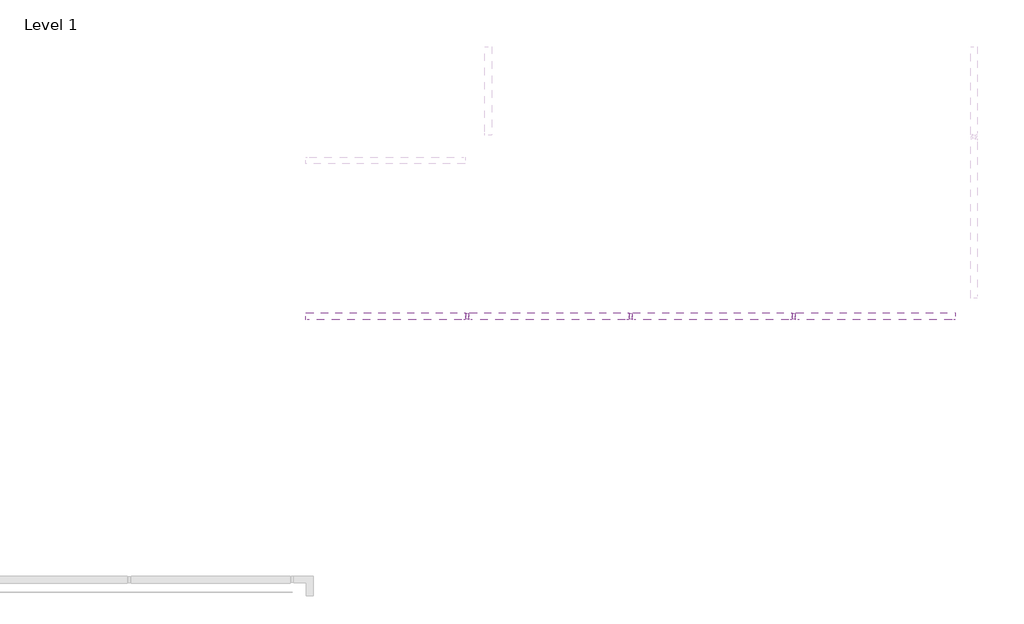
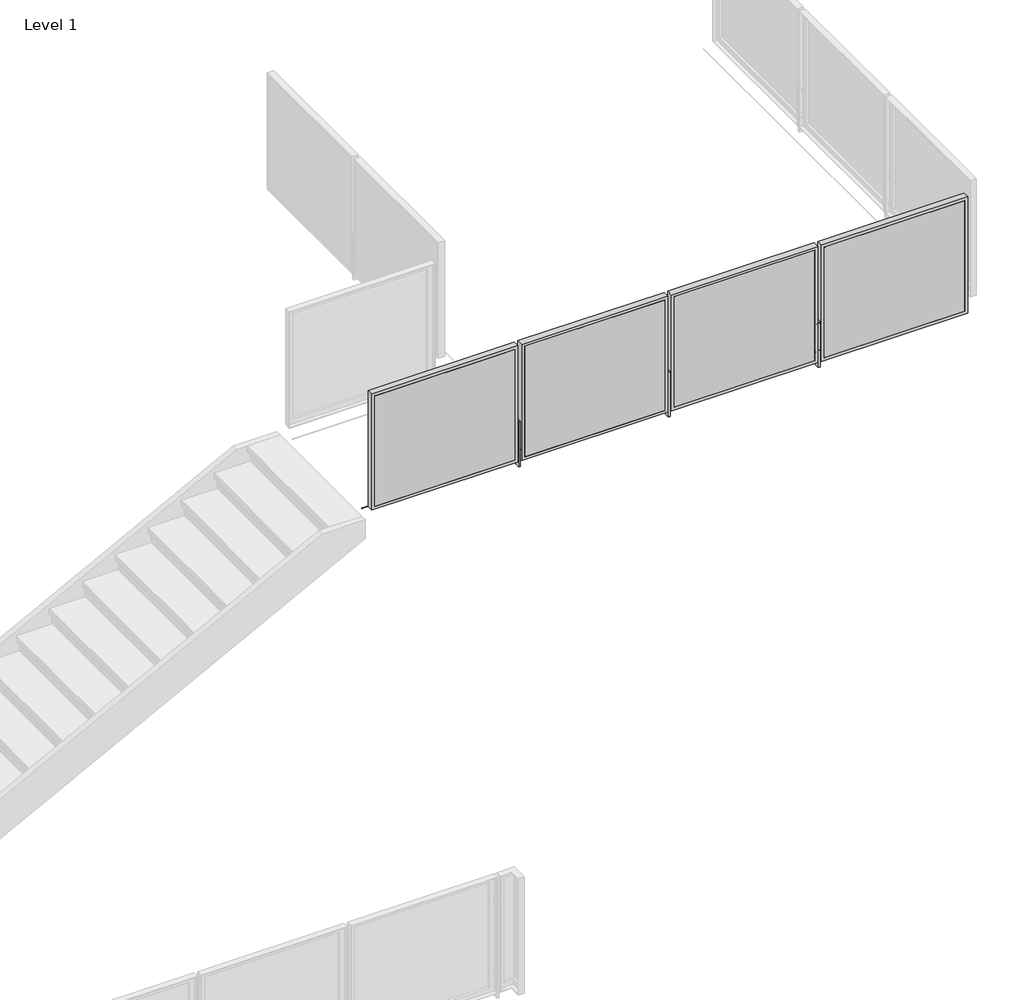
# One storey, part 6 of 37: 1 railing.
"""IFC4 building model written with IfcOpenShell, lengths in millimetres."""

from ifc_helpers import new_model, si_unit, point, frame, frame_2d, origin, place, context, project, spatial, polyline, circle_curve, trimmed, segment, composite_curve, outline, extrude, faceted_brep, element, save
from ifc_brep_helpers import plane_surface, cylinder_surface, advanced_brep

model = new_model("IFC4")

# Units and contexts
model_context = context("Model", 3, world=origin())
ifc_project = project(units=[si_unit("LENGTHUNIT", "METRE", prefix="MILLI")], contexts=[model_context])

# Site, building, storey
site = spatial("IfcSite", under=ifc_project)
building = spatial("IfcBuilding", under=site)
storey = spatial("IfcBuildingStorey", under=building, Name="Level 1", Elevation=0.0)

# Railing
placement = place(None, origin())
element("IfcRailing", 1, ObjectType="Metal-Panel-VIVA-FRAME-Slab-Top-Weld-Straight", at=placement, inside=storey, context=model_context, shape_type="SolidModel", body=[
    extrude(outline(composite_curve([segment(trimmed(circle_curve(frame_2d((-31331.5771681, 3047.746)), 0.254), [point((-31331.8311681, 3047.746))], [point((-31331.3231681, 3047.746))], False, "CARTESIAN"), True, "CONTINUOUS"), segment(trimmed(circle_curve(frame_2d((-31331.5771681, 3047.746)), 0.254), [point((-31331.3231681, 3047.746))], [point((-31331.8311681, 3047.746))], False, "CARTESIAN"), True, "CONTINUOUS")], self_intersect=False)), frame((-33026.4063244, 0.0, 0.0), z_axis=(1.0, 0.0, 0.0), x_axis=(0.0, 1.0, 0.0)), (0.0, 0.0, 1.0), 5080.0),
    extrude(outline(composite_curve([segment(trimmed(circle_curve(frame_2d((-31331.5771681, 3047.746)), 0.254), [point((-31331.8311681, 3047.746))], [point((-31331.3231681, 3047.746))], False, "CARTESIAN"), True, "CONTINUOUS"), segment(trimmed(circle_curve(frame_2d((-31331.5771681, 3047.746)), 0.254), [point((-31331.3231681, 3047.746))], [point((-31331.8311681, 3047.746))], False, "CARTESIAN"), True, "CONTINUOUS")], self_intersect=False)), frame((-33026.4063244, 0.0, 0.0), z_axis=(1.0, 0.0, 0.0), x_axis=(0.0, 1.0, 0.0)), (0.0, 0.0, 1.0), 5080.0),
    extrude(outline(polyline([(-29175.5798675, -31454.3875681), (-29175.5798675, -31451.3875681), (-27987.2327814, -31451.3875681), (-27987.2327814, -31454.3875681), (-29175.5798675, -31454.3875681)])), frame((0.0, 0.0, 3124.1959569), z_axis=(0.0, 0.0, 1.0), x_axis=(1.0, 0.0, 0.0)), (0.0, 0.0, 1.0), 990.5826861),
    faceted_brep([(-29200.9798675, -31454.3875681, 4140.1786431), (-29200.9798675, -31454.3875681, 3098.7959569), (-27961.8327814, -31454.3875681, 3098.7959569), (-27961.8327814, -31454.3875681, 4140.1786431), (-29175.5798675, -31454.3875681, 4114.7786431), (-27987.2327814, -31454.3875681, 4114.7786431), (-27987.2327814, -31454.3875681, 3124.1959569), (-29175.5798675, -31454.3875681, 3124.1959569), (-27987.2327814, -31451.3875681, 3124.1959569), (-29175.5798675, -31451.3875681, 3124.1959569), (-27987.2327814, -31451.3875681, 4114.7786431), (-29175.5798675, -31451.3875681, 4114.7786431), (-29194.9854675, -31400.5875681, 3104.7903569), (-29194.9854675, -31431.3977681, 3104.7903569), (-27967.8271814, -31431.3977681, 3104.7903569), (-27967.8271814, -31400.5875681, 3104.7903569), (-27967.8271814, -31431.3977681, 4134.1842431), (-27967.8271814, -31400.5875681, 4134.1842431), (-29194.9854675, -31400.5875681, 4134.1842431), (-29194.9854675, -31431.3977681, 4134.1842431), (-27961.8327814, -31400.5875681, 3098.7959569), (-29200.9798675, -31400.5875681, 3098.7959569), (-29200.9798675, -31400.5875681, 4140.1786431), (-27961.8327814, -31400.5875681, 4140.1786431), (-29150.1798675, -31451.3875681, 4089.3786431), (-28012.6327814, -31451.3875681, 4089.3786431), (-28012.6327814, -31451.3875681, 3149.5959569), (-29150.1798675, -31451.3875681, 3149.5959569), (-28012.6327814, -31431.3977681, 3149.5959569), (-28012.6327814, -31431.3977681, 4089.3786431), (-29150.1798675, -31431.3977681, 4089.3786431), (-29150.1798675, -31431.3977681, 3149.5959569)], [[[0, 1, 2, 3], [4, 5, 6, 7]], [[7, 6, 8, 9]], [[6, 5, 10, 8]], [[5, 4, 11, 10]], [[4, 7, 9, 11]], [[12, 13, 14, 15]], [[15, 14, 16, 17]], [[13, 12, 18, 19]], [[20, 21, 22, 23], [12, 15, 17, 18]], [[21, 1, 0, 22]], [[21, 20, 2, 1]], [[2, 20, 23, 3]], [[22, 0, 3, 23]], [[11, 9, 8, 10], [24, 25, 26, 27]], [[14, 13, 19, 16], [28, 29, 30, 31]], [[19, 18, 17, 16]], [[25, 24, 30, 29]], [[26, 25, 29, 28]], [[27, 26, 28, 31]], [[24, 27, 31, 30]]]),
    advanced_brep(
    [(-29242.5937244, -31427.4875681, 3178.1496), (-29242.5937244, -31427.4875681, 3197.2504), (-29242.5937244, -31427.4875681, 3187.7), (-29237.8185244, -31427.4875681, 3178.1496), (-29237.8185244, -31427.4875681, 3197.2504), (-29237.8185244, -31427.4875681, 3182.9248), (-29237.8185244, -31427.4875681, 3192.4752), (-29194.9941244, -31427.4875681, 3182.9248), (-29194.9941244, -31427.4875681, 3192.4752), (-29194.9941244, -31427.4875681, 3178.1496), (-29194.9941244, -31427.4875681, 3197.2504), (-29190.2189244, -31427.4875681, 3178.1496), (-29190.2189244, -31427.4875681, 3197.2504), (-29190.2189244, -31427.4875681, 3187.7)],
    [
        (0, 1, circle_curve(frame((-29242.5937244, -31427.4875681, 3187.7), z_axis=(-1.0, 0.0, 0.0), x_axis=(0.0, 0.0, 1.0)), 9.5504)),
        (1, 2),
        (2, 0),
        (1, 0, circle_curve(frame((-29242.5937244, -31427.4875681, 3187.7), z_axis=(-1.0, 0.0, 0.0), x_axis=(0.0, 0.0, 1.0)), 9.5504)),
        (3, 4, circle_curve(frame((-29237.8185244, -31427.4875681, 3187.7), z_axis=(-1.0, 0.0, 0.0), x_axis=(0.0, 0.0, 1.0)), 9.5504)),
        (4, 1),
        (0, 3),
        (4, 3, circle_curve(frame((-29237.8185244, -31427.4875681, 3187.7), z_axis=(-1.0, 0.0, 0.0), x_axis=(0.0, 0.0, 1.0)), 9.5504)),
        (5, 6, circle_curve(frame((-29237.8185244, -31427.4875681, 3187.7), z_axis=(-1.0, 0.0, 0.0), x_axis=(0.0, 0.0, 1.0)), 4.7752)),
        (6, 4),
        (3, 5),
        (6, 5, circle_curve(frame((-29237.8185244, -31427.4875681, 3187.7), z_axis=(-1.0, 0.0, 0.0), x_axis=(0.0, 0.0, 1.0)), 4.7752)),
        (7, 8, circle_curve(frame((-29194.9941244, -31427.4875681, 3187.7), z_axis=(-1.0, 0.0, 0.0), x_axis=(0.0, 0.0, 1.0)), 4.7752)),
        (8, 6),
        (5, 7),
        (8, 7, circle_curve(frame((-29194.9941244, -31427.4875681, 3187.7), z_axis=(-1.0, 0.0, 0.0), x_axis=(0.0, 0.0, 1.0)), 4.7752)),
        (9, 10, circle_curve(frame((-29194.9941244, -31427.4875681, 3187.7), z_axis=(-1.0, 0.0, 0.0), x_axis=(0.0, 0.0, 1.0)), 9.5504)),
        (10, 8),
        (7, 9),
        (10, 9, circle_curve(frame((-29194.9941244, -31427.4875681, 3187.7), z_axis=(-1.0, 0.0, 0.0), x_axis=(0.0, 0.0, 1.0)), 9.5504)),
        (11, 12, circle_curve(frame((-29190.2189244, -31427.4875681, 3187.7), z_axis=(-1.0, 0.0, 0.0), x_axis=(0.0, 0.0, 1.0)), 9.5504)),
        (12, 10),
        (9, 11),
        (12, 11, circle_curve(frame((-29190.2189244, -31427.4875681, 3187.7), z_axis=(-1.0, 0.0, 0.0), x_axis=(0.0, 0.0, 1.0)), 9.5504)),
        (13, 12),
        (11, 13),
    ],
    [
        plane_surface(frame((-29242.5937244, -31427.4875681, 3187.7), z_axis=(-1.0, 0.0, 0.0), x_axis=(0.0, 0.0, 1.0))),
        cylinder_surface(frame((-32634.1740816, -31427.4875681, 3187.7), z_axis=(1.0, 0.0, 0.0), x_axis=(0.0, 0.0, 1.0)), 9.5504),
        plane_surface(frame((-29237.8185244, -31427.4875681, 3187.7), z_axis=(1.0, 0.0, 0.0), x_axis=(0.0, 0.0, 1.0))),
        cylinder_surface(frame((-32634.1740816, -31427.4875681, 3187.7), z_axis=(1.0, 0.0, 0.0), x_axis=(0.0, 0.0, 1.0)), 4.7752),
        plane_surface(frame((-29194.9941244, -31427.4875681, 3187.7), z_axis=(-1.0, 0.0, 0.0), x_axis=(0.0, 0.0, 1.0))),
        plane_surface(frame((-29190.2189244, -31427.4875681, 3187.7), z_axis=(1.0, 0.0, 0.0), x_axis=(0.0, 0.0, 1.0))),
    ],
    [
        (0, [[1, 2, 3]]),
        (0, [[4, -3, -2]]),
        (1, [[5, 6, -1, 7]]),
        (1, [[8, -7, -4, -6]]),
        (2, [[9, 10, -5, 11]]),
        (2, [[12, -11, -8, -10]]),
        (3, [[13, 14, -9, 15]]),
        (3, [[16, -15, -12, -14]]),
        (4, [[17, 18, -13, 19]]),
        (4, [[20, -19, -16, -18]]),
        (1, [[21, 22, -17, 23]]),
        (1, [[24, -23, -20, -22]]),
        (5, [[25, -21, 26]]),
        (5, [[-26, -24, -25]]),
    ],
),
    advanced_brep(
    [(-29242.5937244, -31427.4875681, 3419.4496), (-29242.5937244, -31427.4875681, 3438.5504), (-29242.5937244, -31427.4875681, 3429.0), (-29237.8185244, -31427.4875681, 3419.4496), (-29237.8185244, -31427.4875681, 3438.5504), (-29237.8185244, -31427.4875681, 3424.2248), (-29237.8185244, -31427.4875681, 3433.7752), (-29194.9941244, -31427.4875681, 3424.2248), (-29194.9941244, -31427.4875681, 3433.7752), (-29194.9941244, -31427.4875681, 3419.4496), (-29194.9941244, -31427.4875681, 3438.5504), (-29190.2189244, -31427.4875681, 3419.4496), (-29190.2189244, -31427.4875681, 3438.5504), (-29190.2189244, -31427.4875681, 3429.0)],
    [
        (0, 1, circle_curve(frame((-29242.5937244, -31427.4875681, 3429.0), z_axis=(-1.0, 0.0, 0.0), x_axis=(0.0, 0.0, 1.0)), 9.5504)),
        (1, 2),
        (2, 0),
        (1, 0, circle_curve(frame((-29242.5937244, -31427.4875681, 3429.0), z_axis=(-1.0, 0.0, 0.0), x_axis=(0.0, 0.0, 1.0)), 9.5504)),
        (3, 4, circle_curve(frame((-29237.8185244, -31427.4875681, 3429.0), z_axis=(-1.0, 0.0, 0.0), x_axis=(0.0, 0.0, 1.0)), 9.5504)),
        (4, 1),
        (0, 3),
        (4, 3, circle_curve(frame((-29237.8185244, -31427.4875681, 3429.0), z_axis=(-1.0, 0.0, 0.0), x_axis=(0.0, 0.0, 1.0)), 9.5504)),
        (5, 6, circle_curve(frame((-29237.8185244, -31427.4875681, 3429.0), z_axis=(-1.0, 0.0, 0.0), x_axis=(0.0, 0.0, 1.0)), 4.7752)),
        (6, 4),
        (3, 5),
        (6, 5, circle_curve(frame((-29237.8185244, -31427.4875681, 3429.0), z_axis=(-1.0, 0.0, 0.0), x_axis=(0.0, 0.0, 1.0)), 4.7752)),
        (7, 8, circle_curve(frame((-29194.9941244, -31427.4875681, 3429.0), z_axis=(-1.0, 0.0, 0.0), x_axis=(0.0, 0.0, 1.0)), 4.7752)),
        (8, 6),
        (5, 7),
        (8, 7, circle_curve(frame((-29194.9941244, -31427.4875681, 3429.0), z_axis=(-1.0, 0.0, 0.0), x_axis=(0.0, 0.0, 1.0)), 4.7752)),
        (9, 10, circle_curve(frame((-29194.9941244, -31427.4875681, 3429.0), z_axis=(-1.0, 0.0, 0.0), x_axis=(0.0, 0.0, 1.0)), 9.5504)),
        (10, 8),
        (7, 9),
        (10, 9, circle_curve(frame((-29194.9941244, -31427.4875681, 3429.0), z_axis=(-1.0, 0.0, 0.0), x_axis=(0.0, 0.0, 1.0)), 9.5504)),
        (11, 12, circle_curve(frame((-29190.2189244, -31427.4875681, 3429.0), z_axis=(-1.0, 0.0, 0.0), x_axis=(0.0, 0.0, 1.0)), 9.5504)),
        (12, 10),
        (9, 11),
        (12, 11, circle_curve(frame((-29190.2189244, -31427.4875681, 3429.0), z_axis=(-1.0, 0.0, 0.0), x_axis=(0.0, 0.0, 1.0)), 9.5504)),
        (13, 12),
        (11, 13),
    ],
    [
        plane_surface(frame((-29242.5937244, -31427.4875681, 3429.0), z_axis=(-1.0, 0.0, 0.0), x_axis=(0.0, 0.0, 1.0))),
        cylinder_surface(frame((-32634.1740816, -31427.4875681, 3429.0), z_axis=(1.0, 0.0, 0.0), x_axis=(0.0, 0.0, 1.0)), 9.5504),
        plane_surface(frame((-29237.8185244, -31427.4875681, 3429.0), z_axis=(1.0, 0.0, 0.0), x_axis=(0.0, 0.0, 1.0))),
        cylinder_surface(frame((-32634.1740816, -31427.4875681, 3429.0), z_axis=(1.0, 0.0, 0.0), x_axis=(0.0, 0.0, 1.0)), 4.7752),
        plane_surface(frame((-29194.9941244, -31427.4875681, 3429.0), z_axis=(-1.0, 0.0, 0.0), x_axis=(0.0, 0.0, 1.0))),
        plane_surface(frame((-29190.2189244, -31427.4875681, 3429.0), z_axis=(1.0, 0.0, 0.0), x_axis=(0.0, 0.0, 1.0))),
    ],
    [
        (0, [[1, 2, 3]]),
        (0, [[4, -3, -2]]),
        (1, [[5, 6, -1, 7]]),
        (1, [[8, -7, -4, -6]]),
        (2, [[9, 10, -5, 11]]),
        (2, [[12, -11, -8, -10]]),
        (3, [[13, 14, -9, 15]]),
        (3, [[16, -15, -12, -14]]),
        (4, [[17, 18, -13, 19]]),
        (4, [[20, -19, -16, -18]]),
        (1, [[21, 22, -17, 23]]),
        (1, [[24, -23, -20, -22]]),
        (5, [[25, -21, 26]]),
        (5, [[-26, -24, -25]]),
    ],
),
    extrude(outline(polyline([(-29224.3459161, -31405.2625681), (-29208.4667328, -31405.2625681), (-29208.4667328, -31449.7125681), (-29224.3459161, -31449.7125681), (-29224.3459161, -31405.2625681)])), frame((0.0, 0.0, 3048.0), z_axis=(0.0, 0.0, 1.0), x_axis=(1.0, 0.0, 0.0)), (0.0, 0.0, 1.0), 406.4),
    extrude(outline(polyline([(-30445.5798675, -31454.3875681), (-30445.5798675, -31451.3875681), (-29257.2327814, -31451.3875681), (-29257.2327814, -31454.3875681), (-30445.5798675, -31454.3875681)])), frame((0.0, 0.0, 3124.1959569), z_axis=(0.0, 0.0, 1.0), x_axis=(1.0, 0.0, 0.0)), (0.0, 0.0, 1.0), 990.5826861),
    faceted_brep([(-30470.9798675, -31454.3875681, 4140.1786431), (-30470.9798675, -31454.3875681, 3098.7959569), (-29231.8327814, -31454.3875681, 3098.7959569), (-29231.8327814, -31454.3875681, 4140.1786431), (-30445.5798675, -31454.3875681, 4114.7786431), (-29257.2327814, -31454.3875681, 4114.7786431), (-29257.2327814, -31454.3875681, 3124.1959569), (-30445.5798675, -31454.3875681, 3124.1959569), (-29257.2327814, -31451.3875681, 3124.1959569), (-30445.5798675, -31451.3875681, 3124.1959569), (-29257.2327814, -31451.3875681, 4114.7786431), (-30445.5798675, -31451.3875681, 4114.7786431), (-30464.9854675, -31400.5875681, 3104.7903569), (-30464.9854675, -31431.3977681, 3104.7903569), (-29237.8271814, -31431.3977681, 3104.7903569), (-29237.8271814, -31400.5875681, 3104.7903569), (-29237.8271814, -31431.3977681, 4134.1842431), (-29237.8271814, -31400.5875681, 4134.1842431), (-30464.9854675, -31400.5875681, 4134.1842431), (-30464.9854675, -31431.3977681, 4134.1842431), (-29231.8327814, -31400.5875681, 3098.7959569), (-30470.9798675, -31400.5875681, 3098.7959569), (-30470.9798675, -31400.5875681, 4140.1786431), (-29231.8327814, -31400.5875681, 4140.1786431), (-30420.1798675, -31451.3875681, 4089.3786431), (-29282.6327814, -31451.3875681, 4089.3786431), (-29282.6327814, -31451.3875681, 3149.5959569), (-30420.1798675, -31451.3875681, 3149.5959569), (-29282.6327814, -31431.3977681, 3149.5959569), (-29282.6327814, -31431.3977681, 4089.3786431), (-30420.1798675, -31431.3977681, 4089.3786431), (-30420.1798675, -31431.3977681, 3149.5959569)], [[[0, 1, 2, 3], [4, 5, 6, 7]], [[7, 6, 8, 9]], [[6, 5, 10, 8]], [[5, 4, 11, 10]], [[4, 7, 9, 11]], [[12, 13, 14, 15]], [[15, 14, 16, 17]], [[13, 12, 18, 19]], [[20, 21, 22, 23], [12, 15, 17, 18]], [[21, 1, 0, 22]], [[21, 20, 2, 1]], [[2, 20, 23, 3]], [[22, 0, 3, 23]], [[11, 9, 8, 10], [24, 25, 26, 27]], [[14, 13, 19, 16], [28, 29, 30, 31]], [[19, 18, 17, 16]], [[25, 24, 30, 29]], [[26, 25, 29, 28]], [[27, 26, 28, 31]], [[24, 27, 31, 30]]]),
    advanced_brep(
    [(-30512.5937244, -31427.4875681, 3178.1496), (-30512.5937244, -31427.4875681, 3197.2504), (-30512.5937244, -31427.4875681, 3187.7), (-30507.8185244, -31427.4875681, 3178.1496), (-30507.8185244, -31427.4875681, 3197.2504), (-30507.8185244, -31427.4875681, 3182.9248), (-30507.8185244, -31427.4875681, 3192.4752), (-30464.9941244, -31427.4875681, 3182.9248), (-30464.9941244, -31427.4875681, 3192.4752), (-30464.9941244, -31427.4875681, 3178.1496), (-30464.9941244, -31427.4875681, 3197.2504), (-30460.2189244, -31427.4875681, 3178.1496), (-30460.2189244, -31427.4875681, 3197.2504), (-30460.2189244, -31427.4875681, 3187.7)],
    [
        (0, 1, circle_curve(frame((-30512.5937244, -31427.4875681, 3187.7), z_axis=(-1.0, 0.0, 0.0), x_axis=(0.0, 0.0, 1.0)), 9.5504)),
        (1, 2),
        (2, 0),
        (1, 0, circle_curve(frame((-30512.5937244, -31427.4875681, 3187.7), z_axis=(-1.0, 0.0, 0.0), x_axis=(0.0, 0.0, 1.0)), 9.5504)),
        (3, 4, circle_curve(frame((-30507.8185244, -31427.4875681, 3187.7), z_axis=(-1.0, 0.0, 0.0), x_axis=(0.0, 0.0, 1.0)), 9.5504)),
        (4, 1),
        (0, 3),
        (4, 3, circle_curve(frame((-30507.8185244, -31427.4875681, 3187.7), z_axis=(-1.0, 0.0, 0.0), x_axis=(0.0, 0.0, 1.0)), 9.5504)),
        (5, 6, circle_curve(frame((-30507.8185244, -31427.4875681, 3187.7), z_axis=(-1.0, 0.0, 0.0), x_axis=(0.0, 0.0, 1.0)), 4.7752)),
        (6, 4),
        (3, 5),
        (6, 5, circle_curve(frame((-30507.8185244, -31427.4875681, 3187.7), z_axis=(-1.0, 0.0, 0.0), x_axis=(0.0, 0.0, 1.0)), 4.7752)),
        (7, 8, circle_curve(frame((-30464.9941244, -31427.4875681, 3187.7), z_axis=(-1.0, 0.0, 0.0), x_axis=(0.0, 0.0, 1.0)), 4.7752)),
        (8, 6),
        (5, 7),
        (8, 7, circle_curve(frame((-30464.9941244, -31427.4875681, 3187.7), z_axis=(-1.0, 0.0, 0.0), x_axis=(0.0, 0.0, 1.0)), 4.7752)),
        (9, 10, circle_curve(frame((-30464.9941244, -31427.4875681, 3187.7), z_axis=(-1.0, 0.0, 0.0), x_axis=(0.0, 0.0, 1.0)), 9.5504)),
        (10, 8),
        (7, 9),
        (10, 9, circle_curve(frame((-30464.9941244, -31427.4875681, 3187.7), z_axis=(-1.0, 0.0, 0.0), x_axis=(0.0, 0.0, 1.0)), 9.5504)),
        (11, 12, circle_curve(frame((-30460.2189244, -31427.4875681, 3187.7), z_axis=(-1.0, 0.0, 0.0), x_axis=(0.0, 0.0, 1.0)), 9.5504)),
        (12, 10),
        (9, 11),
        (12, 11, circle_curve(frame((-30460.2189244, -31427.4875681, 3187.7), z_axis=(-1.0, 0.0, 0.0), x_axis=(0.0, 0.0, 1.0)), 9.5504)),
        (13, 12),
        (11, 13),
    ],
    [
        plane_surface(frame((-30512.5937244, -31427.4875681, 3187.7), z_axis=(-1.0, 0.0, 0.0), x_axis=(0.0, 0.0, 1.0))),
        cylinder_surface(frame((-33904.1740816, -31427.4875681, 3187.7), z_axis=(1.0, 0.0, 0.0), x_axis=(0.0, 0.0, 1.0)), 9.5504),
        plane_surface(frame((-30507.8185244, -31427.4875681, 3187.7), z_axis=(1.0, 0.0, 0.0), x_axis=(0.0, 0.0, 1.0))),
        cylinder_surface(frame((-33904.1740816, -31427.4875681, 3187.7), z_axis=(1.0, 0.0, 0.0), x_axis=(0.0, 0.0, 1.0)), 4.7752),
        plane_surface(frame((-30464.9941244, -31427.4875681, 3187.7), z_axis=(-1.0, 0.0, 0.0), x_axis=(0.0, 0.0, 1.0))),
        plane_surface(frame((-30460.2189244, -31427.4875681, 3187.7), z_axis=(1.0, 0.0, 0.0), x_axis=(0.0, 0.0, 1.0))),
    ],
    [
        (0, [[1, 2, 3]]),
        (0, [[4, -3, -2]]),
        (1, [[5, 6, -1, 7]]),
        (1, [[8, -7, -4, -6]]),
        (2, [[9, 10, -5, 11]]),
        (2, [[12, -11, -8, -10]]),
        (3, [[13, 14, -9, 15]]),
        (3, [[16, -15, -12, -14]]),
        (4, [[17, 18, -13, 19]]),
        (4, [[20, -19, -16, -18]]),
        (1, [[21, 22, -17, 23]]),
        (1, [[24, -23, -20, -22]]),
        (5, [[25, -21, 26]]),
        (5, [[-26, -24, -25]]),
    ],
),
    advanced_brep(
    [(-30512.5937244, -31427.4875681, 3419.4496), (-30512.5937244, -31427.4875681, 3438.5504), (-30512.5937244, -31427.4875681, 3429.0), (-30507.8185244, -31427.4875681, 3419.4496), (-30507.8185244, -31427.4875681, 3438.5504), (-30507.8185244, -31427.4875681, 3424.2248), (-30507.8185244, -31427.4875681, 3433.7752), (-30464.9941244, -31427.4875681, 3424.2248), (-30464.9941244, -31427.4875681, 3433.7752), (-30464.9941244, -31427.4875681, 3419.4496), (-30464.9941244, -31427.4875681, 3438.5504), (-30460.2189244, -31427.4875681, 3419.4496), (-30460.2189244, -31427.4875681, 3438.5504), (-30460.2189244, -31427.4875681, 3429.0)],
    [
        (0, 1, circle_curve(frame((-30512.5937244, -31427.4875681, 3429.0), z_axis=(-1.0, 0.0, 0.0), x_axis=(0.0, 0.0, 1.0)), 9.5504)),
        (1, 2),
        (2, 0),
        (1, 0, circle_curve(frame((-30512.5937244, -31427.4875681, 3429.0), z_axis=(-1.0, 0.0, 0.0), x_axis=(0.0, 0.0, 1.0)), 9.5504)),
        (3, 4, circle_curve(frame((-30507.8185244, -31427.4875681, 3429.0), z_axis=(-1.0, 0.0, 0.0), x_axis=(0.0, 0.0, 1.0)), 9.5504)),
        (4, 1),
        (0, 3),
        (4, 3, circle_curve(frame((-30507.8185244, -31427.4875681, 3429.0), z_axis=(-1.0, 0.0, 0.0), x_axis=(0.0, 0.0, 1.0)), 9.5504)),
        (5, 6, circle_curve(frame((-30507.8185244, -31427.4875681, 3429.0), z_axis=(-1.0, 0.0, 0.0), x_axis=(0.0, 0.0, 1.0)), 4.7752)),
        (6, 4),
        (3, 5),
        (6, 5, circle_curve(frame((-30507.8185244, -31427.4875681, 3429.0), z_axis=(-1.0, 0.0, 0.0), x_axis=(0.0, 0.0, 1.0)), 4.7752)),
        (7, 8, circle_curve(frame((-30464.9941244, -31427.4875681, 3429.0), z_axis=(-1.0, 0.0, 0.0), x_axis=(0.0, 0.0, 1.0)), 4.7752)),
        (8, 6),
        (5, 7),
        (8, 7, circle_curve(frame((-30464.9941244, -31427.4875681, 3429.0), z_axis=(-1.0, 0.0, 0.0), x_axis=(0.0, 0.0, 1.0)), 4.7752)),
        (9, 10, circle_curve(frame((-30464.9941244, -31427.4875681, 3429.0), z_axis=(-1.0, 0.0, 0.0), x_axis=(0.0, 0.0, 1.0)), 9.5504)),
        (10, 8),
        (7, 9),
        (10, 9, circle_curve(frame((-30464.9941244, -31427.4875681, 3429.0), z_axis=(-1.0, 0.0, 0.0), x_axis=(0.0, 0.0, 1.0)), 9.5504)),
        (11, 12, circle_curve(frame((-30460.2189244, -31427.4875681, 3429.0), z_axis=(-1.0, 0.0, 0.0), x_axis=(0.0, 0.0, 1.0)), 9.5504)),
        (12, 10),
        (9, 11),
        (12, 11, circle_curve(frame((-30460.2189244, -31427.4875681, 3429.0), z_axis=(-1.0, 0.0, 0.0), x_axis=(0.0, 0.0, 1.0)), 9.5504)),
        (13, 12),
        (11, 13),
    ],
    [
        plane_surface(frame((-30512.5937244, -31427.4875681, 3429.0), z_axis=(-1.0, 0.0, 0.0), x_axis=(0.0, 0.0, 1.0))),
        cylinder_surface(frame((-33904.1740816, -31427.4875681, 3429.0), z_axis=(1.0, 0.0, 0.0), x_axis=(0.0, 0.0, 1.0)), 9.5504),
        plane_surface(frame((-30507.8185244, -31427.4875681, 3429.0), z_axis=(1.0, 0.0, 0.0), x_axis=(0.0, 0.0, 1.0))),
        cylinder_surface(frame((-33904.1740816, -31427.4875681, 3429.0), z_axis=(1.0, 0.0, 0.0), x_axis=(0.0, 0.0, 1.0)), 4.7752),
        plane_surface(frame((-30464.9941244, -31427.4875681, 3429.0), z_axis=(-1.0, 0.0, 0.0), x_axis=(0.0, 0.0, 1.0))),
        plane_surface(frame((-30460.2189244, -31427.4875681, 3429.0), z_axis=(1.0, 0.0, 0.0), x_axis=(0.0, 0.0, 1.0))),
    ],
    [
        (0, [[1, 2, 3]]),
        (0, [[4, -3, -2]]),
        (1, [[5, 6, -1, 7]]),
        (1, [[8, -7, -4, -6]]),
        (2, [[9, 10, -5, 11]]),
        (2, [[12, -11, -8, -10]]),
        (3, [[13, 14, -9, 15]]),
        (3, [[16, -15, -12, -14]]),
        (4, [[17, 18, -13, 19]]),
        (4, [[20, -19, -16, -18]]),
        (1, [[21, 22, -17, 23]]),
        (1, [[24, -23, -20, -22]]),
        (5, [[25, -21, 26]]),
        (5, [[-26, -24, -25]]),
    ],
),
    extrude(outline(polyline([(-30494.3459161, -31405.2625681), (-30478.4667328, -31405.2625681), (-30478.4667328, -31449.7125681), (-30494.3459161, -31449.7125681), (-30494.3459161, -31405.2625681)])), frame((0.0, 0.0, 3048.0), z_axis=(0.0, 0.0, 1.0), x_axis=(1.0, 0.0, 0.0)), (0.0, 0.0, 1.0), 406.4),
    extrude(outline(polyline([(-31715.5798675, -31454.3875681), (-31715.5798675, -31451.3875681), (-30527.2327814, -31451.3875681), (-30527.2327814, -31454.3875681), (-31715.5798675, -31454.3875681)])), frame((0.0, 0.0, 3124.1959569), z_axis=(0.0, 0.0, 1.0), x_axis=(1.0, 0.0, 0.0)), (0.0, 0.0, 1.0), 990.5826861),
    faceted_brep([(-31740.9798675, -31454.3875681, 4140.1786431), (-31740.9798675, -31454.3875681, 3098.7959569), (-30501.8327814, -31454.3875681, 3098.7959569), (-30501.8327814, -31454.3875681, 4140.1786431), (-31715.5798675, -31454.3875681, 4114.7786431), (-30527.2327814, -31454.3875681, 4114.7786431), (-30527.2327814, -31454.3875681, 3124.1959569), (-31715.5798675, -31454.3875681, 3124.1959569), (-30527.2327814, -31451.3875681, 3124.1959569), (-31715.5798675, -31451.3875681, 3124.1959569), (-30527.2327814, -31451.3875681, 4114.7786431), (-31715.5798675, -31451.3875681, 4114.7786431), (-31734.9854675, -31400.5875681, 3104.7903569), (-31734.9854675, -31431.3977681, 3104.7903569), (-30507.8271814, -31431.3977681, 3104.7903569), (-30507.8271814, -31400.5875681, 3104.7903569), (-30507.8271814, -31431.3977681, 4134.1842431), (-30507.8271814, -31400.5875681, 4134.1842431), (-31734.9854675, -31400.5875681, 4134.1842431), (-31734.9854675, -31431.3977681, 4134.1842431), (-30501.8327814, -31400.5875681, 3098.7959569), (-31740.9798675, -31400.5875681, 3098.7959569), (-31740.9798675, -31400.5875681, 4140.1786431), (-30501.8327814, -31400.5875681, 4140.1786431), (-31690.1798675, -31451.3875681, 4089.3786431), (-30552.6327814, -31451.3875681, 4089.3786431), (-30552.6327814, -31451.3875681, 3149.5959569), (-31690.1798675, -31451.3875681, 3149.5959569), (-30552.6327814, -31431.3977681, 3149.5959569), (-30552.6327814, -31431.3977681, 4089.3786431), (-31690.1798675, -31431.3977681, 4089.3786431), (-31690.1798675, -31431.3977681, 3149.5959569)], [[[0, 1, 2, 3], [4, 5, 6, 7]], [[7, 6, 8, 9]], [[6, 5, 10, 8]], [[5, 4, 11, 10]], [[4, 7, 9, 11]], [[12, 13, 14, 15]], [[15, 14, 16, 17]], [[13, 12, 18, 19]], [[20, 21, 22, 23], [12, 15, 17, 18]], [[21, 1, 0, 22]], [[21, 20, 2, 1]], [[2, 20, 23, 3]], [[22, 0, 3, 23]], [[11, 9, 8, 10], [24, 25, 26, 27]], [[14, 13, 19, 16], [28, 29, 30, 31]], [[19, 18, 17, 16]], [[25, 24, 30, 29]], [[26, 25, 29, 28]], [[27, 26, 28, 31]], [[24, 27, 31, 30]]]),
    advanced_brep(
    [(-31782.5937244, -31427.4875681, 3178.1496), (-31782.5937244, -31427.4875681, 3197.2504), (-31782.5937244, -31427.4875681, 3187.7), (-31777.8185244, -31427.4875681, 3178.1496), (-31777.8185244, -31427.4875681, 3197.2504), (-31777.8185244, -31427.4875681, 3182.9248), (-31777.8185244, -31427.4875681, 3192.4752), (-31734.9941244, -31427.4875681, 3182.9248), (-31734.9941244, -31427.4875681, 3192.4752), (-31734.9941244, -31427.4875681, 3178.1496), (-31734.9941244, -31427.4875681, 3197.2504), (-31730.2189244, -31427.4875681, 3178.1496), (-31730.2189244, -31427.4875681, 3197.2504), (-31730.2189244, -31427.4875681, 3187.7)],
    [
        (0, 1, circle_curve(frame((-31782.5937244, -31427.4875681, 3187.7), z_axis=(-1.0, 0.0, 0.0), x_axis=(0.0, 0.0, 1.0)), 9.5504)),
        (1, 2),
        (2, 0),
        (1, 0, circle_curve(frame((-31782.5937244, -31427.4875681, 3187.7), z_axis=(-1.0, 0.0, 0.0), x_axis=(0.0, 0.0, 1.0)), 9.5504)),
        (3, 4, circle_curve(frame((-31777.8185244, -31427.4875681, 3187.7), z_axis=(-1.0, 0.0, 0.0), x_axis=(0.0, 0.0, 1.0)), 9.5504)),
        (4, 1),
        (0, 3),
        (4, 3, circle_curve(frame((-31777.8185244, -31427.4875681, 3187.7), z_axis=(-1.0, 0.0, 0.0), x_axis=(0.0, 0.0, 1.0)), 9.5504)),
        (5, 6, circle_curve(frame((-31777.8185244, -31427.4875681, 3187.7), z_axis=(-1.0, 0.0, 0.0), x_axis=(0.0, 0.0, 1.0)), 4.7752)),
        (6, 4),
        (3, 5),
        (6, 5, circle_curve(frame((-31777.8185244, -31427.4875681, 3187.7), z_axis=(-1.0, 0.0, 0.0), x_axis=(0.0, 0.0, 1.0)), 4.7752)),
        (7, 8, circle_curve(frame((-31734.9941244, -31427.4875681, 3187.7), z_axis=(-1.0, 0.0, 0.0), x_axis=(0.0, 0.0, 1.0)), 4.7752)),
        (8, 6),
        (5, 7),
        (8, 7, circle_curve(frame((-31734.9941244, -31427.4875681, 3187.7), z_axis=(-1.0, 0.0, 0.0), x_axis=(0.0, 0.0, 1.0)), 4.7752)),
        (9, 10, circle_curve(frame((-31734.9941244, -31427.4875681, 3187.7), z_axis=(-1.0, 0.0, 0.0), x_axis=(0.0, 0.0, 1.0)), 9.5504)),
        (10, 8),
        (7, 9),
        (10, 9, circle_curve(frame((-31734.9941244, -31427.4875681, 3187.7), z_axis=(-1.0, 0.0, 0.0), x_axis=(0.0, 0.0, 1.0)), 9.5504)),
        (11, 12, circle_curve(frame((-31730.2189244, -31427.4875681, 3187.7), z_axis=(-1.0, 0.0, 0.0), x_axis=(0.0, 0.0, 1.0)), 9.5504)),
        (12, 10),
        (9, 11),
        (12, 11, circle_curve(frame((-31730.2189244, -31427.4875681, 3187.7), z_axis=(-1.0, 0.0, 0.0), x_axis=(0.0, 0.0, 1.0)), 9.5504)),
        (13, 12),
        (11, 13),
    ],
    [
        plane_surface(frame((-31782.5937244, -31427.4875681, 3187.7), z_axis=(-1.0, 0.0, 0.0), x_axis=(0.0, 0.0, 1.0))),
        cylinder_surface(frame((-35174.1740816, -31427.4875681, 3187.7), z_axis=(1.0, 0.0, 0.0), x_axis=(0.0, 0.0, 1.0)), 9.5504),
        plane_surface(frame((-31777.8185244, -31427.4875681, 3187.7), z_axis=(1.0, 0.0, 0.0), x_axis=(0.0, 0.0, 1.0))),
        cylinder_surface(frame((-35174.1740816, -31427.4875681, 3187.7), z_axis=(1.0, 0.0, 0.0), x_axis=(0.0, 0.0, 1.0)), 4.7752),
        plane_surface(frame((-31734.9941244, -31427.4875681, 3187.7), z_axis=(-1.0, 0.0, 0.0), x_axis=(0.0, 0.0, 1.0))),
        plane_surface(frame((-31730.2189244, -31427.4875681, 3187.7), z_axis=(1.0, 0.0, 0.0), x_axis=(0.0, 0.0, 1.0))),
    ],
    [
        (0, [[1, 2, 3]]),
        (0, [[4, -3, -2]]),
        (1, [[5, 6, -1, 7]]),
        (1, [[8, -7, -4, -6]]),
        (2, [[9, 10, -5, 11]]),
        (2, [[12, -11, -8, -10]]),
        (3, [[13, 14, -9, 15]]),
        (3, [[16, -15, -12, -14]]),
        (4, [[17, 18, -13, 19]]),
        (4, [[20, -19, -16, -18]]),
        (1, [[21, 22, -17, 23]]),
        (1, [[24, -23, -20, -22]]),
        (5, [[25, -21, 26]]),
        (5, [[-26, -24, -25]]),
    ],
),
    advanced_brep(
    [(-31782.5937244, -31427.4875681, 3419.4496), (-31782.5937244, -31427.4875681, 3438.5504), (-31782.5937244, -31427.4875681, 3429.0), (-31777.8185244, -31427.4875681, 3419.4496), (-31777.8185244, -31427.4875681, 3438.5504), (-31777.8185244, -31427.4875681, 3424.2248), (-31777.8185244, -31427.4875681, 3433.7752), (-31734.9941244, -31427.4875681, 3424.2248), (-31734.9941244, -31427.4875681, 3433.7752), (-31734.9941244, -31427.4875681, 3419.4496), (-31734.9941244, -31427.4875681, 3438.5504), (-31730.2189244, -31427.4875681, 3419.4496), (-31730.2189244, -31427.4875681, 3438.5504), (-31730.2189244, -31427.4875681, 3429.0)],
    [
        (0, 1, circle_curve(frame((-31782.5937244, -31427.4875681, 3429.0), z_axis=(-1.0, 0.0, 0.0), x_axis=(0.0, 0.0, 1.0)), 9.5504)),
        (1, 2),
        (2, 0),
        (1, 0, circle_curve(frame((-31782.5937244, -31427.4875681, 3429.0), z_axis=(-1.0, 0.0, 0.0), x_axis=(0.0, 0.0, 1.0)), 9.5504)),
        (3, 4, circle_curve(frame((-31777.8185244, -31427.4875681, 3429.0), z_axis=(-1.0, 0.0, 0.0), x_axis=(0.0, 0.0, 1.0)), 9.5504)),
        (4, 1),
        (0, 3),
        (4, 3, circle_curve(frame((-31777.8185244, -31427.4875681, 3429.0), z_axis=(-1.0, 0.0, 0.0), x_axis=(0.0, 0.0, 1.0)), 9.5504)),
        (5, 6, circle_curve(frame((-31777.8185244, -31427.4875681, 3429.0), z_axis=(-1.0, 0.0, 0.0), x_axis=(0.0, 0.0, 1.0)), 4.7752)),
        (6, 4),
        (3, 5),
        (6, 5, circle_curve(frame((-31777.8185244, -31427.4875681, 3429.0), z_axis=(-1.0, 0.0, 0.0), x_axis=(0.0, 0.0, 1.0)), 4.7752)),
        (7, 8, circle_curve(frame((-31734.9941244, -31427.4875681, 3429.0), z_axis=(-1.0, 0.0, 0.0), x_axis=(0.0, 0.0, 1.0)), 4.7752)),
        (8, 6),
        (5, 7),
        (8, 7, circle_curve(frame((-31734.9941244, -31427.4875681, 3429.0), z_axis=(-1.0, 0.0, 0.0), x_axis=(0.0, 0.0, 1.0)), 4.7752)),
        (9, 10, circle_curve(frame((-31734.9941244, -31427.4875681, 3429.0), z_axis=(-1.0, 0.0, 0.0), x_axis=(0.0, 0.0, 1.0)), 9.5504)),
        (10, 8),
        (7, 9),
        (10, 9, circle_curve(frame((-31734.9941244, -31427.4875681, 3429.0), z_axis=(-1.0, 0.0, 0.0), x_axis=(0.0, 0.0, 1.0)), 9.5504)),
        (11, 12, circle_curve(frame((-31730.2189244, -31427.4875681, 3429.0), z_axis=(-1.0, 0.0, 0.0), x_axis=(0.0, 0.0, 1.0)), 9.5504)),
        (12, 10),
        (9, 11),
        (12, 11, circle_curve(frame((-31730.2189244, -31427.4875681, 3429.0), z_axis=(-1.0, 0.0, 0.0), x_axis=(0.0, 0.0, 1.0)), 9.5504)),
        (13, 12),
        (11, 13),
    ],
    [
        plane_surface(frame((-31782.5937244, -31427.4875681, 3429.0), z_axis=(-1.0, 0.0, 0.0), x_axis=(0.0, 0.0, 1.0))),
        cylinder_surface(frame((-35174.1740816, -31427.4875681, 3429.0), z_axis=(1.0, 0.0, 0.0), x_axis=(0.0, 0.0, 1.0)), 9.5504),
        plane_surface(frame((-31777.8185244, -31427.4875681, 3429.0), z_axis=(1.0, 0.0, 0.0), x_axis=(0.0, 0.0, 1.0))),
        cylinder_surface(frame((-35174.1740816, -31427.4875681, 3429.0), z_axis=(1.0, 0.0, 0.0), x_axis=(0.0, 0.0, 1.0)), 4.7752),
        plane_surface(frame((-31734.9941244, -31427.4875681, 3429.0), z_axis=(-1.0, 0.0, 0.0), x_axis=(0.0, 0.0, 1.0))),
        plane_surface(frame((-31730.2189244, -31427.4875681, 3429.0), z_axis=(1.0, 0.0, 0.0), x_axis=(0.0, 0.0, 1.0))),
    ],
    [
        (0, [[1, 2, 3]]),
        (0, [[4, -3, -2]]),
        (1, [[5, 6, -1, 7]]),
        (1, [[8, -7, -4, -6]]),
        (2, [[9, 10, -5, 11]]),
        (2, [[12, -11, -8, -10]]),
        (3, [[13, 14, -9, 15]]),
        (3, [[16, -15, -12, -14]]),
        (4, [[17, 18, -13, 19]]),
        (4, [[20, -19, -16, -18]]),
        (1, [[21, 22, -17, 23]]),
        (1, [[24, -23, -20, -22]]),
        (5, [[25, -21, 26]]),
        (5, [[-26, -24, -25]]),
    ],
),
    extrude(outline(polyline([(-31764.3459161, -31405.2625681), (-31748.4667328, -31405.2625681), (-31748.4667328, -31449.7125681), (-31764.3459161, -31449.7125681), (-31764.3459161, -31405.2625681)])), frame((0.0, 0.0, 3048.0), z_axis=(0.0, 0.0, 1.0), x_axis=(1.0, 0.0, 0.0)), (0.0, 0.0, 1.0), 406.4),
    extrude(outline(polyline([(-32985.5798675, -31454.3875681), (-32985.5798675, -31451.3875681), (-31797.2327814, -31451.3875681), (-31797.2327814, -31454.3875681), (-32985.5798675, -31454.3875681)])), frame((0.0, 0.0, 3124.1959569), z_axis=(0.0, 0.0, 1.0), x_axis=(1.0, 0.0, 0.0)), (0.0, 0.0, 1.0), 990.5826861),
    faceted_brep([(-33010.9798675, -31454.3875681, 4140.1786431), (-33010.9798675, -31454.3875681, 3098.7959569), (-31771.8327814, -31454.3875681, 3098.7959569), (-31771.8327814, -31454.3875681, 4140.1786431), (-32985.5798675, -31454.3875681, 4114.7786431), (-31797.2327814, -31454.3875681, 4114.7786431), (-31797.2327814, -31454.3875681, 3124.1959569), (-32985.5798675, -31454.3875681, 3124.1959569), (-31797.2327814, -31451.3875681, 3124.1959569), (-32985.5798675, -31451.3875681, 3124.1959569), (-31797.2327814, -31451.3875681, 4114.7786431), (-32985.5798675, -31451.3875681, 4114.7786431), (-33004.9854675, -31400.5875681, 3104.7903569), (-33004.9854675, -31431.3977681, 3104.7903569), (-31777.8271814, -31431.3977681, 3104.7903569), (-31777.8271814, -31400.5875681, 3104.7903569), (-31777.8271814, -31431.3977681, 4134.1842431), (-31777.8271814, -31400.5875681, 4134.1842431), (-33004.9854675, -31400.5875681, 4134.1842431), (-33004.9854675, -31431.3977681, 4134.1842431), (-31771.8327814, -31400.5875681, 3098.7959569), (-33010.9798675, -31400.5875681, 3098.7959569), (-33010.9798675, -31400.5875681, 4140.1786431), (-31771.8327814, -31400.5875681, 4140.1786431), (-32960.1798675, -31451.3875681, 4089.3786431), (-31822.6327814, -31451.3875681, 4089.3786431), (-31822.6327814, -31451.3875681, 3149.5959569), (-32960.1798675, -31451.3875681, 3149.5959569), (-31822.6327814, -31431.3977681, 3149.5959569), (-31822.6327814, -31431.3977681, 4089.3786431), (-32960.1798675, -31431.3977681, 4089.3786431), (-32960.1798675, -31431.3977681, 3149.5959569)], [[[0, 1, 2, 3], [4, 5, 6, 7]], [[7, 6, 8, 9]], [[6, 5, 10, 8]], [[5, 4, 11, 10]], [[4, 7, 9, 11]], [[12, 13, 14, 15]], [[15, 14, 16, 17]], [[13, 12, 18, 19]], [[20, 21, 22, 23], [12, 15, 17, 18]], [[21, 1, 0, 22]], [[21, 20, 2, 1]], [[2, 20, 23, 3]], [[22, 0, 3, 23]], [[11, 9, 8, 10], [24, 25, 26, 27]], [[14, 13, 19, 16], [28, 29, 30, 31]], [[19, 18, 17, 16]], [[25, 24, 30, 29]], [[26, 25, 29, 28]], [[27, 26, 28, 31]], [[24, 27, 31, 30]]]),
])

save(model, "model.ifc")
